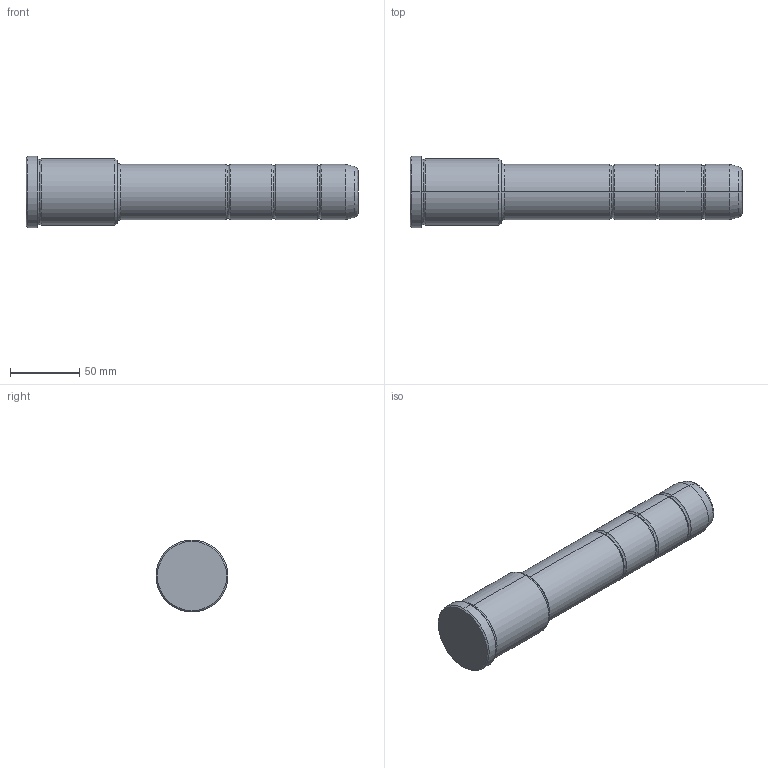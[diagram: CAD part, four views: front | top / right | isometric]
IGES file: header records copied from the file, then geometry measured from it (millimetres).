
Start section: START RECORD GO HERE.
Global section: file name: 351-40X66X240.igs; native system: DASSAULT SYSTEMES CATIA V5 R20 - www.3ds.com; preprocessor: CATIA Version 5 Release 20 ; author: Utente; organization: NB04-ASUS; date: 20211028.204014; units: millimetre
Bounding box: 240 x 52 x 52 mm (x, y, z)
Surface area: 35701.6 mm2 (no closed solid volume)
Topology: 0 solids, 0 shells, 42 faces, 236 edges, 236 vertices
Faces by surface type: revolution 38, plane 4
